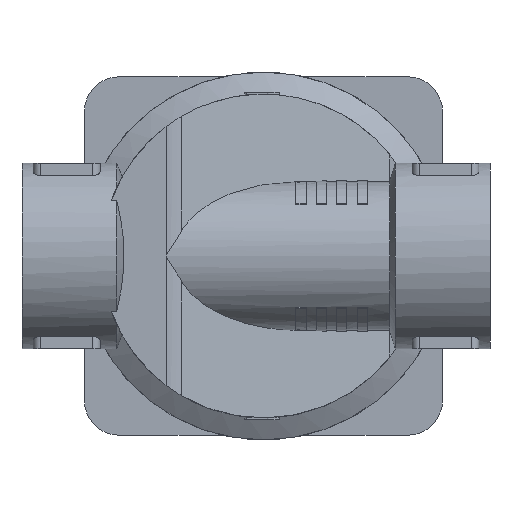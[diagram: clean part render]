
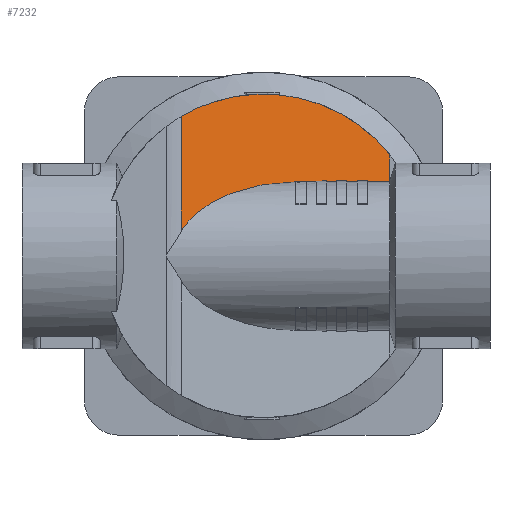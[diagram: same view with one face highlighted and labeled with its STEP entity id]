
A CAD part, front view. The second image highlights one B-rep face of the part: STEP entity #7232.
In plain terms, the highlighted planar face has unit normal (0.517, -0.856, 0).
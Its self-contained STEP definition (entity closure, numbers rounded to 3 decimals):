
#67=ELLIPSE('',#7626,50.947,43.6);
#75=ELLIPSE('',#7665,38.661,20.);
#122=B_SPLINE_CURVE_WITH_KNOTS('',3,(#10640,#10641,#10642,#10643),
 .UNSPECIFIED.,.F.,.F.,(4,4),(0.007,0.007),
 .UNSPECIFIED.);
#495=LINE('',#10849,#1061);
#496=LINE('',#10851,#1062);
#497=LINE('',#10852,#1063);
#1061=VECTOR('',#8826,1000.);
#1062=VECTOR('',#8827,1000.);
#1063=VECTOR('',#8828,1000.);
#2057=ORIENTED_EDGE('',*,*,#3582,.F.);
#2058=ORIENTED_EDGE('',*,*,#3583,.T.);
#2059=ORIENTED_EDGE('',*,*,#3486,.T.);
#2060=ORIENTED_EDGE('',*,*,#3397,.F.);
#2061=ORIENTED_EDGE('',*,*,#3584,.T.);
#2062=ORIENTED_EDGE('',*,*,#3463,.T.);
#3397=EDGE_CURVE('',#4225,#4226,#67,.F.);
#3463=EDGE_CURVE('',#4292,#4291,#75,.F.);
#3486=EDGE_CURVE('',#4313,#4226,#122,.T.);
#3582=EDGE_CURVE('',#4373,#4291,#495,.T.);
#3583=EDGE_CURVE('',#4373,#4313,#496,.T.);
#3584=EDGE_CURVE('',#4225,#4292,#497,.T.);
#4225=VERTEX_POINT('',#10403);
#4226=VERTEX_POINT('',#10405);
#4291=VERTEX_POINT('',#10580);
#4292=VERTEX_POINT('',#10582);
#4313=VERTEX_POINT('',#10644);
#4373=VERTEX_POINT('',#10850);
#5014=EDGE_LOOP('',(#2057,#2058,#2059,#2060,#2061,#2062));
#5409=FACE_BOUND('',#5014,.T.);
#5750=PLANE('',#7729);
#7232=ADVANCED_FACE('',(#5409),#5750,.T.);
#7626=AXIS2_PLACEMENT_3D('',#10404,#8517,#8518);
#7665=AXIS2_PLACEMENT_3D('',#10581,#8619,#8620);
#7729=AXIS2_PLACEMENT_3D('',#10848,#8824,#8825);
#8517=DIRECTION('',(0.517,-0.856,0.));
#8518=DIRECTION('',(0.856,0.517,0.));
#8619=DIRECTION('',(0.517,-0.856,0.));
#8620=DIRECTION('',(-0.856,-0.517,0.));
#8824=DIRECTION('',(0.517,-0.856,0.));
#8825=DIRECTION('',(0.856,0.517,0.));
#8826=DIRECTION('',(-0.856,-0.517,0.));
#8827=DIRECTION('',(0.,0.,1.));
#8828=DIRECTION('',(0.,0.,-1.));
#10403=CARTESIAN_POINT('',(-22.092,-18.846,37.589));
#10404=CARTESIAN_POINT('',(0.,-5.493,0.));
#10405=CARTESIAN_POINT('',(34.056,15.094,27.224));
#10580=CARTESIAN_POINT('',(9.086,0.,20.));
#10581=CARTESIAN_POINT('',(9.086,0.,0.));
#10582=CARTESIAN_POINT('',(-22.092,-18.846,6.694));
#10640=CARTESIAN_POINT('',(34.057,15.094,27.224));
#10641=CARTESIAN_POINT('',(34.057,15.094,27.224));
#10642=CARTESIAN_POINT('',(34.056,15.094,27.224));
#10643=CARTESIAN_POINT('',(34.056,15.094,27.224));
#10644=CARTESIAN_POINT('',(34.057,15.094,27.224));
#10848=CARTESIAN_POINT('',(43.,20.5,99.));
#10849=CARTESIAN_POINT('',(43.,20.5,20.));
#10850=CARTESIAN_POINT('',(34.057,15.094,20.));
#10851=CARTESIAN_POINT('',(34.057,15.094,99.));
#10852=CARTESIAN_POINT('',(-22.092,-18.846,99.));
